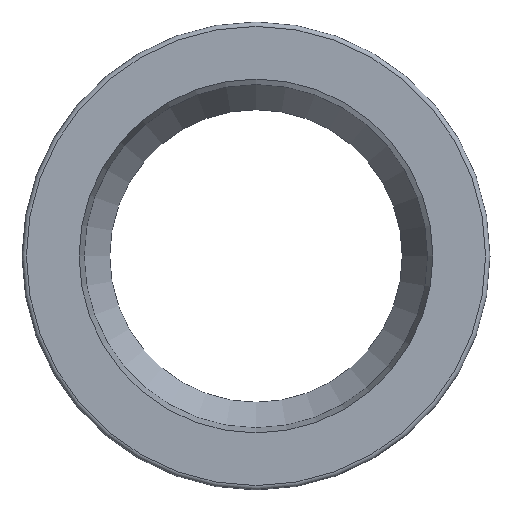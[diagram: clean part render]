
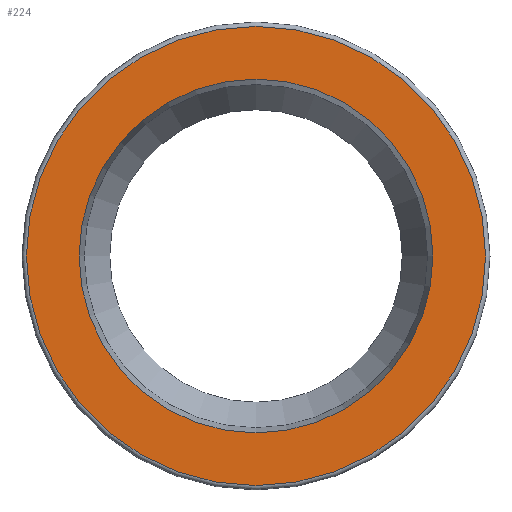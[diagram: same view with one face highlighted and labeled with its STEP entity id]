
A CAD part, left-side view. The second image highlights one B-rep face of the part: STEP entity #224.
In plain terms, the highlighted planar face has unit normal (-1, 0, 0).
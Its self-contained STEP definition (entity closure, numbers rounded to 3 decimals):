
#20=FACE_BOUND('',#66,.T.);
#24=PLANE('',#274);
#49=FACE_OUTER_BOUND('',#65,.T.);
#65=EDGE_LOOP('',(#176));
#66=EDGE_LOOP('',(#177));
#87=CIRCLE('',#270,15.7);
#90=CIRCLE('',#275,12.1);
#109=VERTEX_POINT('',#404);
#112=VERTEX_POINT('',#414);
#132=EDGE_CURVE('',#109,#109,#87,.T.);
#136=EDGE_CURVE('',#112,#112,#90,.T.);
#176=ORIENTED_EDGE('',*,*,#132,.F.);
#177=ORIENTED_EDGE('',*,*,#136,.T.);
#224=ADVANCED_FACE('',(#49,#20),#24,.T.);
#270=AXIS2_PLACEMENT_3D('',#406,#325,#326);
#274=AXIS2_PLACEMENT_3D('',#413,#334,#335);
#275=AXIS2_PLACEMENT_3D('',#415,#336,#337);
#325=DIRECTION('center_axis',(1.,0.,0.));
#326=DIRECTION('ref_axis',(0.,-1.,0.));
#334=DIRECTION('center_axis',(-1.,0.,0.));
#335=DIRECTION('ref_axis',(0.,0.,1.));
#336=DIRECTION('center_axis',(1.,0.,0.));
#337=DIRECTION('ref_axis',(0.,1.,0.));
#404=CARTESIAN_POINT('',(0.,0.,15.7));
#406=CARTESIAN_POINT('Origin',(0.,0.,
0.));
#413=CARTESIAN_POINT('Origin',(0.,14.05,0.));
#414=CARTESIAN_POINT('',(0.,-12.1,0.));
#415=CARTESIAN_POINT('Origin',(0.,0.,
0.));
